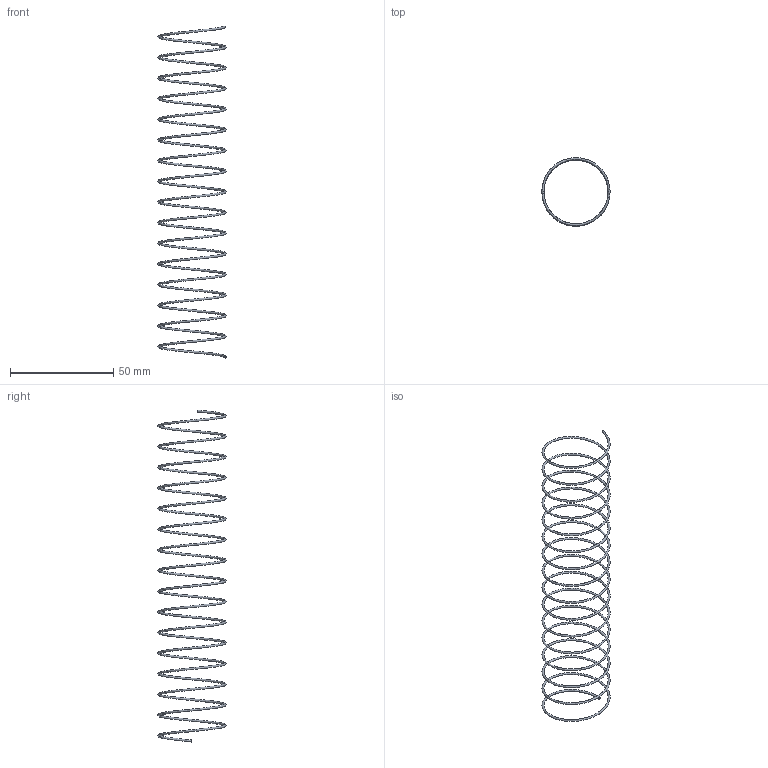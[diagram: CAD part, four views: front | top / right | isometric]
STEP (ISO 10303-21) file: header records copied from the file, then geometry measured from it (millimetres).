
FILE_DESCRIPTION( ( 'STEP AP203' ), '1' );
FILE_NAME( 'D:/Cuma/25 06 2009/D60.01/D60.01_32/D60.01_32160.step', '2003-02-03T14:18:03', ( ' ' ), ( ' ' ), 'XStep 1.0', ' ', ' ' );
FILE_SCHEMA( ( 'CONFIG_CONTROL_DESIGN' ) );
Length unit declared in the file: metre
Products named in the file (1): 1
Bounding box: 32.99 x 32.98 x 160.72 mm (x, y, z)
Volume: 1248.8 mm3; surface area: 5033.9 mm2
Topology: 1 solids, 1 shells, 3 faces, 3 edges, 2 vertices
Faces by surface type: plane 2, bspline 1
Entity records: 2671 total; most frequent: CARTESIAN_POINT 2589, DIRECTION 6, CC_DESIGN_PERSON_AND_ORGANIZATION_ASSIGNMENT 5, PERSON_AND_ORGANIZATION_ROLE 4, FACE_OUTER_BOUND 4, EDGE_LOOP 4, ORIENTED_EDGE 4, AXIS2_PLACEMENT_3D 3
